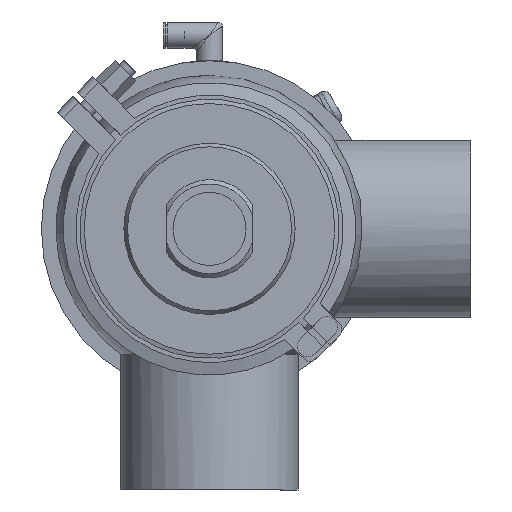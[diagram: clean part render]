
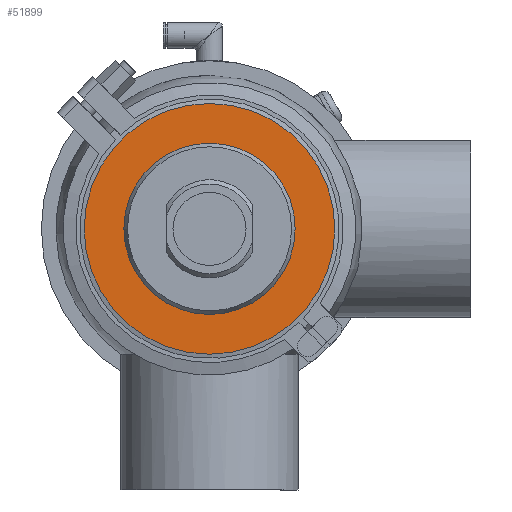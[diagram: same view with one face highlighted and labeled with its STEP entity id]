
A CAD part, front view. The second image highlights one B-rep face of the part: STEP entity #51899.
In plain terms, the highlighted planar face has unit normal (0, -1, 0).
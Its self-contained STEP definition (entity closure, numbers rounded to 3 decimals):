
#4853 = DIRECTION ( 'NONE',  ( 0., 1., 0. ) ) ;
#5231 = CIRCLE ( 'NONE', #26369, 41. ) ;
#5492 = CARTESIAN_POINT ( 'NONE',  ( 0., -13., 0. ) ) ;
#8367 = ORIENTED_EDGE ( 'NONE', *, *, #43685, .T. ) ;
#9171 = PLANE ( 'NONE',  #38586 ) ;
#10223 = CARTESIAN_POINT ( 'NONE',  ( 0., -13., 0. ) ) ;
#14974 = DIRECTION ( 'NONE',  ( 0., 0., 1. ) ) ;
#15612 = DIRECTION ( 'NONE',  ( 0., 0., 1. ) ) ;
#15670 = EDGE_CURVE ( 'NONE', #37879, #37879, #27908, .T. ) ;
#18960 = DIRECTION ( 'NONE',  ( 0., -1., 0. ) ) ;
#19899 = FACE_BOUND ( 'NONE', #21103, .T. ) ;
#21103 = EDGE_LOOP ( 'NONE', ( #8367 ) ) ;
#23610 = CARTESIAN_POINT ( 'NONE',  ( 0., -13., 41. ) ) ;
#24292 = FACE_OUTER_BOUND ( 'NONE', #60318, .T. ) ;
#26369 = AXIS2_PLACEMENT_3D ( 'NONE', #5492, #4853, #15612 ) ;
#27908 = CIRCLE ( 'NONE', #51169, 60. ) ;
#32749 = VERTEX_POINT ( 'NONE', #23610 ) ;
#33435 = CARTESIAN_POINT ( 'NONE',  ( -60., -13., 0. ) ) ;
#33563 = ORIENTED_EDGE ( 'NONE', *, *, #15670, .F. ) ;
#37879 = VERTEX_POINT ( 'NONE', #52716 ) ;
#38586 = AXIS2_PLACEMENT_3D ( 'NONE', #33435, #18960, #39155 ) ;
#39155 = DIRECTION ( 'NONE',  ( 0., 0., -1. ) ) ;
#40496 = DIRECTION ( 'NONE',  ( 0., 1., 0. ) ) ;
#43685 = EDGE_CURVE ( 'NONE', #32749, #32749, #5231, .T. ) ;
#51169 = AXIS2_PLACEMENT_3D ( 'NONE', #10223, #40496, #14974 ) ;
#51899 = ADVANCED_FACE ( 'NONE', ( #19899, #24292 ), #9171, .T. ) ;
#52716 = CARTESIAN_POINT ( 'NONE',  ( 0., -13., 60. ) ) ;
#60318 = EDGE_LOOP ( 'NONE', ( #33563 ) ) ;
